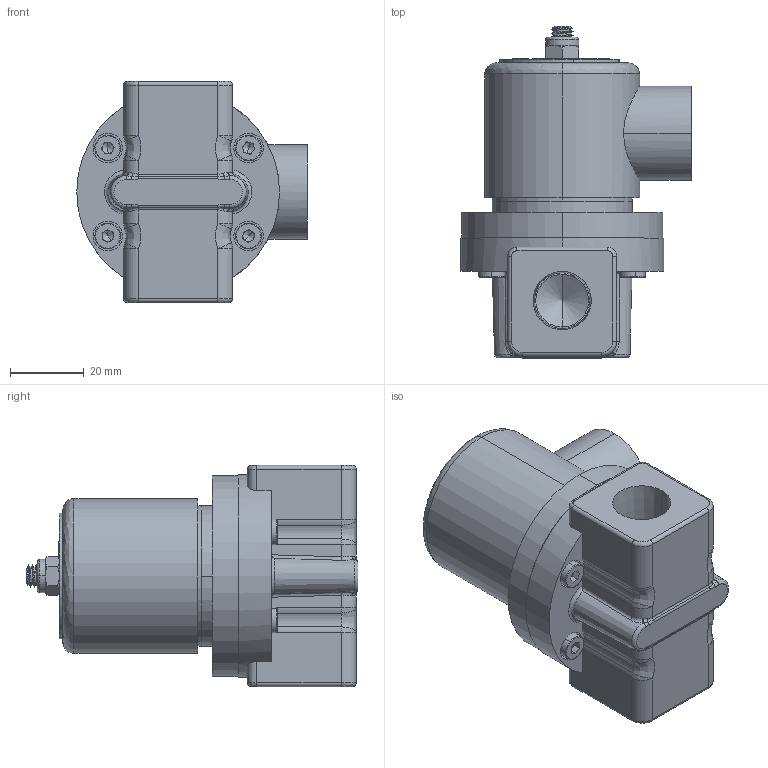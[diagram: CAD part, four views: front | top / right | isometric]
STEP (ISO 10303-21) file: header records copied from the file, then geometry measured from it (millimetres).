
FILE_DESCRIPTION (( 'STEP AP203' ), '1' );
FILE_NAME ('AS2201A-03-#.STEP', '2016-02-04T06:20:18', ( 'Sam Lin' ), ( '' ), 'SwSTEP 2.0', 'SolidWorks 2013', '' );
FILE_SCHEMA (( 'CONFIG_CONTROL_DESIGN' ));
Length unit declared in the file: metre
Products named in the file (9): AS2201A-03-#; AS2200-2; AS2201-1; mark-AS2200; M6螺帽; M6螺栓; AS2201-2; ISO 4762 M4 x 10; AS2201-3
Assembly tree (11 placements, depth 2):
  AS2201A-03-#
    AS2200-2
    AS2201-1
    mark-AS2200
    M6螺帽
    M6螺栓
    AS2201-2
    ISO 4762 M4 x 10  x4
    AS2201-3
Bounding box: 62.5 x 90 x 60 mm (x, y, z)
Volume: 93429.2 mm3; surface area: 36950 mm2
Topology: 17 solids, 17 shells, 455 faces, 1071 edges, 661 vertices
Faces by surface type: plane 176, cylinder 155, bspline 80, cone 44
Entity records: 16449 total; most frequent: CARTESIAN_POINT 7210, ORIENTED_EDGE 1770, DIRECTION 1614, EDGE_CURVE 885, AXIS2_PLACEMENT_3D 608, VERTEX_POINT 556, EDGE_LOOP 413, LINE 398
